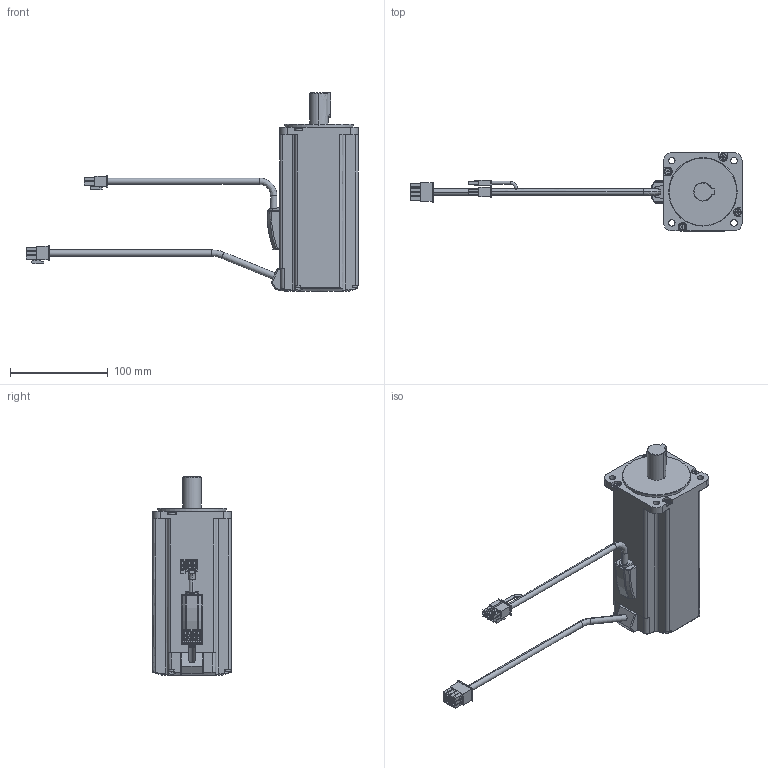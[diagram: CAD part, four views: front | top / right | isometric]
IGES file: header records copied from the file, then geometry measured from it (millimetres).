
Start section:  PTC IGES file: 10001011_rsmz-08ba_brake.igs
Global section: file name: 10001011_rsmz-08ba_brake.igs; native system: Pro/ENGINEER by Parametric Technology Corporation; preprocessor: 2004440; author: Administrator; organization: Unknown; date: 070829.201037; units: millimetre
Bounding box: 339.76 x 80 x 203 mm (x, y, z)
Volume: 969201.1 mm3; surface area: 85326.7 mm2
Topology: 1 solids, 1 shells, 531 faces, 1337 edges, 868 vertices
Faces by surface type: bspline 381, revolution 150
